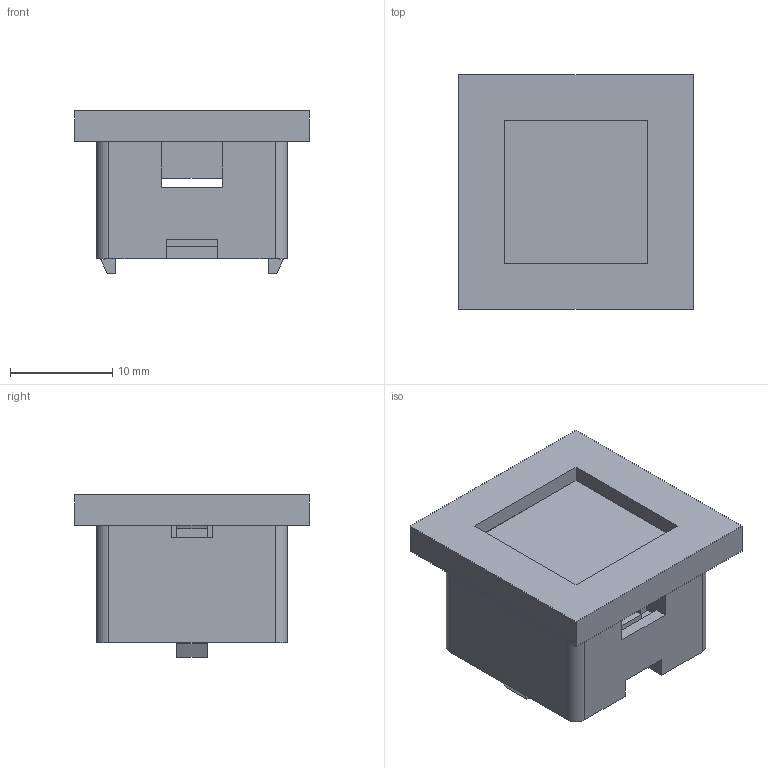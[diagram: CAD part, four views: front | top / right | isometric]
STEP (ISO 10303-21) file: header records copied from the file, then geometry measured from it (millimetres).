
FILE_DESCRIPTION(('Open CASCADE Model'),'2;1');
FILE_NAME('Open CASCADE Shape Model','2026-09-14T20:55:59',('Author'),( 'Open CASCADE'),'Open CASCADE STEP processor 7.9','Open CASCADE 7.9' ,'Unknown');
FILE_SCHEMA(('AUTOMOTIVE_DESIGN { 1 0 10303 214 1 1 1 1 }'));
Length unit declared in the file: millimetre
Products named in the file (5): SNAP_BAFFLE_FIT_SAMPLE_UNVERIFIED; PRINT_test_plate; PRINT_removable_cup; REFERENCE_lower_switch_envelope; REFERENCE_LED_envelope
Assembly tree (4 placements, depth 2):
  SNAP_BAFFLE_FIT_SAMPLE_UNVERIFIED
    PRINT_test_plate
    PRINT_removable_cup
    REFERENCE_lower_switch_envelope
    REFERENCE_LED_envelope
Bounding box: 23 x 23 x 15.9 mm (x, y, z)
Volume: 3292.6 mm3; surface area: 4414.9 mm2
Topology: 4 solids, 4 shells, 104 faces, 294 edges, 196 vertices
Faces by surface type: plane 92, cylinder 12
Entity records: 7084 total; most frequent: CARTESIAN_POINT 1447, DIRECTION 904, LINE 622, VECTOR 622, ORIENTED_EDGE 588, PCURVE 588, DEFINITIONAL_REPRESENTATION 588, EDGE_CURVE 294
